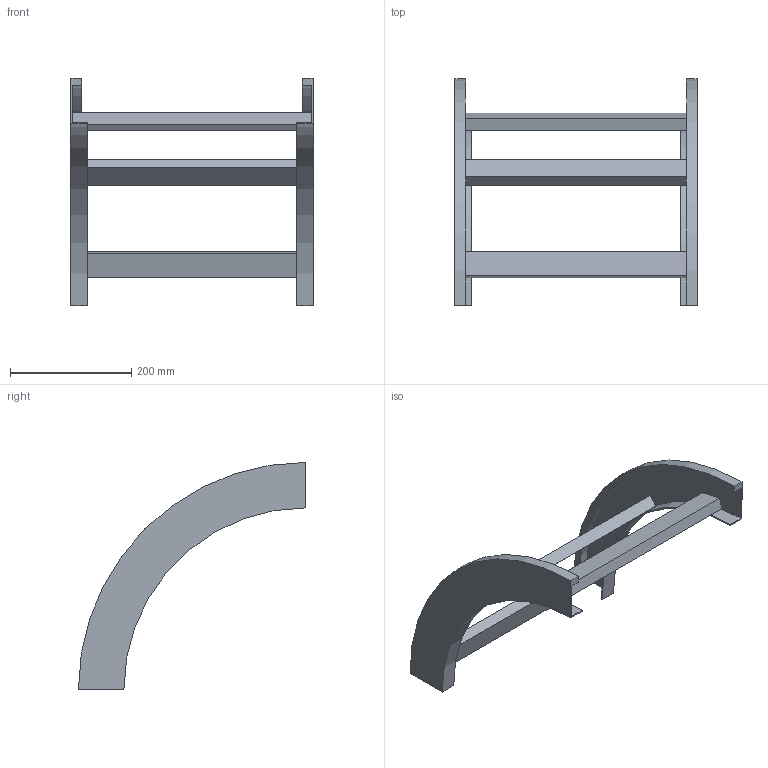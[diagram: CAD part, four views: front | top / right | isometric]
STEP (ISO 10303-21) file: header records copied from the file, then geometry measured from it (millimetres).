
FILE_DESCRIPTION (( 'STEP AP214' ), '1' );
FILE_NAME ('B2_33B3C400.step', '2025-02-21T15:06:05', ( '' ), ( '' ), 'SwSTEP 2.0', 'SolidWorks 2023', '' );
FILE_SCHEMA (( 'AUTOMOTIVE_DESIGN' ));
Length unit declared in the file: millimetre
Products named in the file (3): B2_33B3C400; B2_LONGH.DISCESA_90°_H75_R300; TRAVERSINO_400
Assembly tree (5 placements, depth 2):
  B2_33B3C400
    B2_LONGH.DISCESA_90°_H75_R300  x2
    TRAVERSINO_400  x3
Bounding box: 400 x 375 x 375 mm (x, y, z)
Volume: 1391179.7 mm3; surface area: 397837.2 mm2
Topology: 5 solids, 5 shells, 38 faces, 84 edges, 56 vertices
Faces by surface type: plane 30, cylinder 8
Entity records: 560 total; most frequent: DIRECTION 92, CARTESIAN_POINT 84, ORIENTED_EDGE 72, EDGE_CURVE 36, AXIS2_PLACEMENT_3D 32, VECTOR 28, LINE 28, VERTEX_POINT 24
